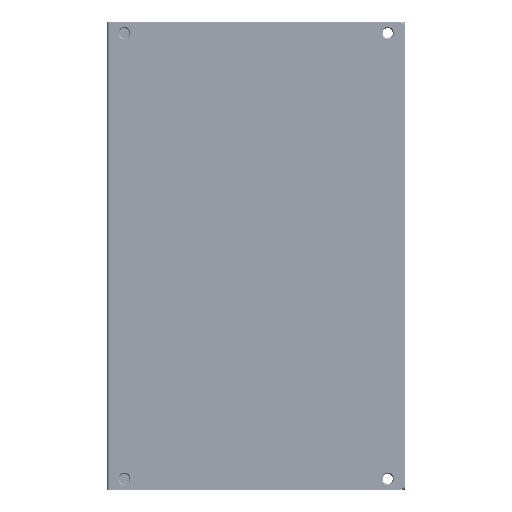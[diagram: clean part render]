
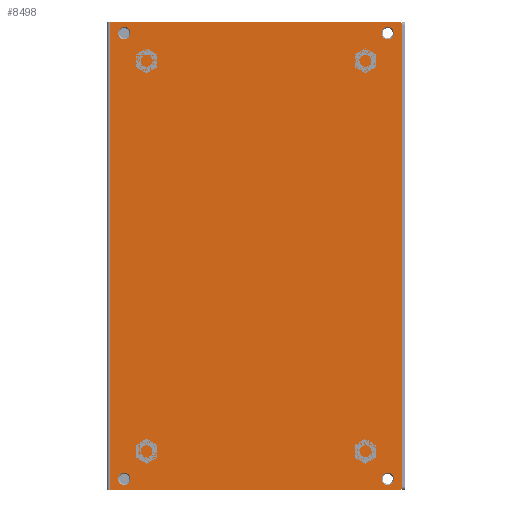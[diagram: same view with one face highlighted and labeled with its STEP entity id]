
A CAD part, front view. The second image highlights one B-rep face of the part: STEP entity #8498.
In plain terms, the highlighted planar face has unit normal (0, -1, 0).
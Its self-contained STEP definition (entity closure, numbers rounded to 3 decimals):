
#4290=DIRECTION('',(0.,0.,-1.));
#4291=VECTOR('',#4290,138.6);
#4292=CARTESIAN_POINT('',(0.8,-0.8,0.));
#4293=LINE('',#4292,#4291);
#4303=DIRECTION('',(-1.,0.,0.));
#4304=VECTOR('',#4303,85.6);
#4305=CARTESIAN_POINT('',(86.4,-0.8,0.));
#4306=LINE('',#4305,#4304);
#5348=DIRECTION('',(1.,0.,0.));
#5349=VECTOR('',#5348,85.6);
#5350=CARTESIAN_POINT('',(0.8,-0.8,-138.6));
#5351=LINE('',#5350,#5349);
#5360=CARTESIAN_POINT('',(86.4,-0.8,-1.));
#5361=DIRECTION('',(0.,1.,0.));
#5362=DIRECTION('',(0.,0.,1.));
#5363=AXIS2_PLACEMENT_3D('',#5360,#5361,#5362);
#5365=CARTESIAN_POINT('',(86.4,-0.8,-137.6));
#5366=DIRECTION('',(0.,1.,0.));
#5367=DIRECTION('',(1.,0.,0.));
#5368=AXIS2_PLACEMENT_3D('',#5365,#5366,#5367);
#5370=CARTESIAN_POINT('',(5.1,-0.8,-3.3));
#5371=DIRECTION('',(0.,-1.,0.));
#5372=DIRECTION('',(0.,0.,-1.));
#5373=AXIS2_PLACEMENT_3D('',#5370,#5371,#5372);
#5375=CARTESIAN_POINT('',(5.1,-0.8,-3.3));
#5376=DIRECTION('',(0.,-1.,0.));
#5377=DIRECTION('',(0.,0.,1.));
#5378=AXIS2_PLACEMENT_3D('',#5375,#5376,#5377);
#5380=CARTESIAN_POINT('',(83.1,-0.8,-3.3));
#5381=DIRECTION('',(0.,-1.,0.));
#5382=DIRECTION('',(0.,0.,-1.));
#5383=AXIS2_PLACEMENT_3D('',#5380,#5381,#5382);
#5385=CARTESIAN_POINT('',(83.1,-0.8,-3.3));
#5386=DIRECTION('',(0.,-1.,0.));
#5387=DIRECTION('',(0.,0.,1.));
#5388=AXIS2_PLACEMENT_3D('',#5385,#5386,#5387);
#5390=CARTESIAN_POINT('',(83.1,-0.8,-135.3));
#5391=DIRECTION('',(0.,-1.,0.));
#5392=DIRECTION('',(0.,0.,-1.));
#5393=AXIS2_PLACEMENT_3D('',#5390,#5391,#5392);
#5395=CARTESIAN_POINT('',(83.1,-0.8,-135.3));
#5396=DIRECTION('',(0.,-1.,0.));
#5397=DIRECTION('',(0.,0.,1.));
#5398=AXIS2_PLACEMENT_3D('',#5395,#5396,#5397);
#5400=CARTESIAN_POINT('',(5.1,-0.8,-135.3));
#5401=DIRECTION('',(0.,-1.,0.));
#5402=DIRECTION('',(0.,0.,-1.));
#5403=AXIS2_PLACEMENT_3D('',#5400,#5401,#5402);
#5405=CARTESIAN_POINT('',(5.1,-0.8,-135.3));
#5406=DIRECTION('',(0.,-1.,0.));
#5407=DIRECTION('',(0.,0.,1.));
#5408=AXIS2_PLACEMENT_3D('',#5405,#5406,#5407);
#5410=DIRECTION('',(0.,0.,1.));
#5411=VECTOR('',#5410,136.6);
#5412=CARTESIAN_POINT('',(87.4,-0.8,-137.6));
#5413=LINE('',#5412,#5411);
#5976=CARTESIAN_POINT('',(0.8,-0.8,-138.6));
#5977=VERTEX_POINT('',#5976);
#5978=CARTESIAN_POINT('',(0.8,-0.8,0.));
#5979=VERTEX_POINT('',#5978);
#5982=CARTESIAN_POINT('',(86.4,-0.8,0.));
#5984=VERTEX_POINT('',#5982);
#5988=CARTESIAN_POINT('',(87.4,-0.8,-1.));
#5989=VERTEX_POINT('',#5988);
#6218=CARTESIAN_POINT('',(86.4,-0.8,-138.6));
#6219=VERTEX_POINT('',#6218);
#6220=CARTESIAN_POINT('',(87.4,-0.8,-137.6));
#6221=VERTEX_POINT('',#6220);
#6222=CARTESIAN_POINT('',(5.1,-0.8,-5.1));
#6223=CARTESIAN_POINT('',(5.1,-0.8,-1.5));
#6224=VERTEX_POINT('',#6222);
#6225=VERTEX_POINT('',#6223);
#6226=CARTESIAN_POINT('',(83.1,-0.8,-5.1));
#6227=CARTESIAN_POINT('',(83.1,-0.8,-1.5));
#6228=VERTEX_POINT('',#6226);
#6229=VERTEX_POINT('',#6227);
#6230=CARTESIAN_POINT('',(83.1,-0.8,-137.1));
#6231=CARTESIAN_POINT('',(83.1,-0.8,-133.5));
#6232=VERTEX_POINT('',#6230);
#6233=VERTEX_POINT('',#6231);
#6234=CARTESIAN_POINT('',(5.1,-0.8,-137.1));
#6235=CARTESIAN_POINT('',(5.1,-0.8,-133.5));
#6236=VERTEX_POINT('',#6234);
#6237=VERTEX_POINT('',#6235);
#8460=CARTESIAN_POINT('',(0.,-0.8,0.));
#8461=DIRECTION('',(0.,1.,0.));
#8462=DIRECTION('',(1.,0.,0.));
#8463=AXIS2_PLACEMENT_3D('',#8460,#8461,#8462);
#8464=PLANE('',#8463);
#8465=ORIENTED_EDGE('',*,*,#6778,.T.);
#8467=ORIENTED_EDGE('',*,*,#8466,.F.);
#8468=ORIENTED_EDGE('',*,*,#8453,.T.);
#8469=ORIENTED_EDGE('',*,*,#8441,.F.);
#8470=ORIENTED_EDGE('',*,*,#6735,.F.);
#8471=ORIENTED_EDGE('',*,*,#6761,.F.);
#8472=EDGE_LOOP('',(#8465,#8467,#8468,#8469,#8470,#8471));
#8473=FACE_OUTER_BOUND('',#8472,.F.);
#8475=ORIENTED_EDGE('',*,*,#8474,.T.);
#8477=ORIENTED_EDGE('',*,*,#8476,.T.);
#8478=EDGE_LOOP('',(#8475,#8477));
#8479=FACE_BOUND('',#8478,.F.);
#8481=ORIENTED_EDGE('',*,*,#8480,.T.);
#8483=ORIENTED_EDGE('',*,*,#8482,.T.);
#8484=EDGE_LOOP('',(#8481,#8483));
#8485=FACE_BOUND('',#8484,.F.);
#8487=ORIENTED_EDGE('',*,*,#8486,.T.);
#8489=ORIENTED_EDGE('',*,*,#8488,.T.);
#8490=EDGE_LOOP('',(#8487,#8489));
#8491=FACE_BOUND('',#8490,.F.);
#8493=ORIENTED_EDGE('',*,*,#8492,.T.);
#8495=ORIENTED_EDGE('',*,*,#8494,.T.);
#8496=EDGE_LOOP('',(#8493,#8495));
#8497=FACE_BOUND('',#8496,.F.);
#8498=ADVANCED_FACE('',(#8473,#8479,#8485,#8491,#8497),#8464,.F.);
#5364=CIRCLE('',#5363,1.);
#5369=CIRCLE('',#5368,1.);
#5374=CIRCLE('',#5373,1.8);
#5379=CIRCLE('',#5378,1.8);
#5384=CIRCLE('',#5383,1.8);
#5389=CIRCLE('',#5388,1.8);
#5394=CIRCLE('',#5393,1.8);
#5399=CIRCLE('',#5398,1.8);
#5404=CIRCLE('',#5403,1.8);
#5409=CIRCLE('',#5408,1.8);
#6735=EDGE_CURVE('',#5979,#5977,#4293,.T.);
#6761=EDGE_CURVE('',#5984,#5979,#4306,.T.);
#6778=EDGE_CURVE('',#5984,#5989,#5364,.T.);
#8441=EDGE_CURVE('',#5977,#6219,#5351,.T.);
#8453=EDGE_CURVE('',#6221,#6219,#5369,.T.);
#8466=EDGE_CURVE('',#6221,#5989,#5413,.T.);
#8474=EDGE_CURVE('',#6224,#6225,#5374,.T.);
#8476=EDGE_CURVE('',#6225,#6224,#5379,.T.);
#8480=EDGE_CURVE('',#6228,#6229,#5384,.T.);
#8482=EDGE_CURVE('',#6229,#6228,#5389,.T.);
#8486=EDGE_CURVE('',#6232,#6233,#5394,.T.);
#8488=EDGE_CURVE('',#6233,#6232,#5399,.T.);
#8492=EDGE_CURVE('',#6236,#6237,#5404,.T.);
#8494=EDGE_CURVE('',#6237,#6236,#5409,.T.);
